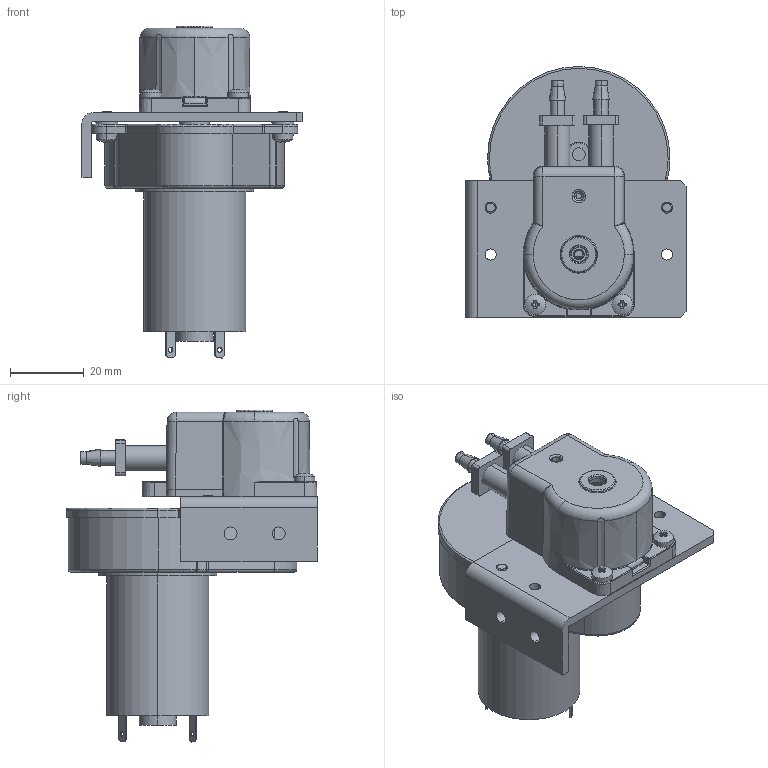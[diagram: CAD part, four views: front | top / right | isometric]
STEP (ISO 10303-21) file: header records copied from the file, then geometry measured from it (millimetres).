
FILE_DESCRIPTION (( 'STEP AP203' ), '1' );
FILE_NAME ('100 series dc r motor.STEP', '2020-10-22T13:04:08', ( '' ), ( '' ), 'SwSTEP 2.0', 'SolidWorks 2017', '' );
FILE_SCHEMA (( 'CONFIG_CONTROL_DESIGN' ));
Length unit declared in the file: millimetre
Products named in the file (24): 52384-1 120 BASE_1; micro 4; 4_1_1; 13; 3_1_1; 2_1_1; 11_1; 52384-2 120 COVER_1; 9_1; 1.6mm tube; 2; 10_1; 52384-2 120 series 0.8 tube grip_1; r motor; screw_iso7045-m3x6-h; 100 series dc r motor; 52417-1 120 series assembly_1; 7_1; 8_1; 5_1_1; 52384-2 120 series 1.6 tube grip_1; 1_1_1; 6_1_1; 12_1
Assembly tree (26 placements, depth 3):
  100 series dc r motor
    52417-1 120 series assembly_1
      52384-2 120 COVER_1
      52384-1 120 BASE_1
      52384-2 120 series 1.6 tube grip_1
      52384-2 120 series 0.8 tube grip_1
    screw_iso7045-m3x6-h  x2
    1.6mm tube  x2
    micro 4  x2
    2
    r motor
      1_1_1
      2_1_1
      3_1_1
      4_1_1
      5_1_1
      6_1_1
      7_1
      8_1
      9_1
      10_1
      11_1
      12_1
      13
Bounding box: 59.5 x 67.85 x 89.78 mm (x, y, z)
Volume: 81667.3 mm3; surface area: 34024.5 mm2
Topology: 24 solids, 26 shells, 987 faces, 2498 edges, 1571 vertices
Faces by surface type: plane 339, cylinder 325, torus 127, bspline 93, cone 79, sphere 24
Entity records: 35047 total; most frequent: CARTESIAN_POINT 11425, ORIENTED_EDGE 4512, DIRECTION 4305, EDGE_CURVE 2256, AXIS2_PLACEMENT_3D 1666, VERTEX_POINT 1427, LINE 973, VECTOR 973
